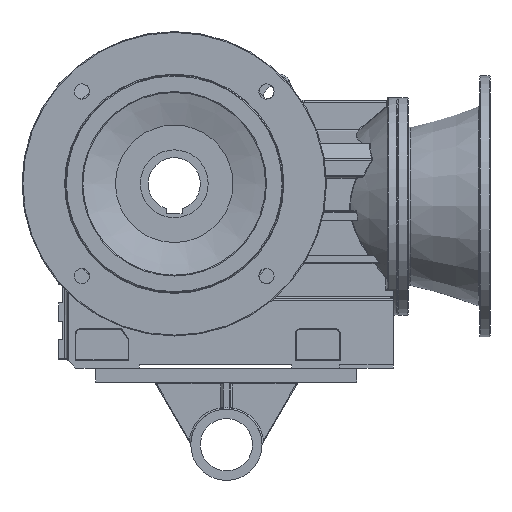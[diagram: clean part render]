
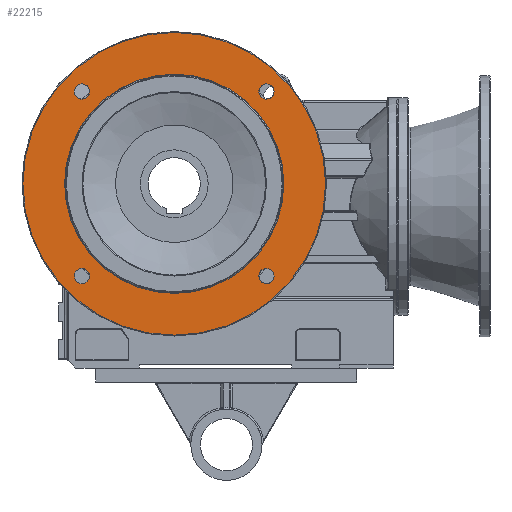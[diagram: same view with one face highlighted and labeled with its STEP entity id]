
A CAD part, front view. The second image highlights one B-rep face of the part: STEP entity #22215.
In plain terms, the highlighted planar face has unit normal (0, -1, 0).
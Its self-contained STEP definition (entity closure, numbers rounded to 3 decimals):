
#21516=CARTESIAN_POINT('',(-97.316,-34.,106.066));
#21517=VERTEX_POINT('',#21516);
#21518=CARTESIAN_POINT('',(-106.066,-34.,106.066));
#21519=DIRECTION('',(0.0,1.0,0.0));
#21520=DIRECTION('',(1.0,0.0,0.0));
#21521=AXIS2_PLACEMENT_3D('',#21518,#21519,#21520);
#21522=CIRCLE('',#21521,8.75);
#21523=EDGE_CURVE('',#21517,#21517,#21522,.T.);
#21646=CARTESIAN_POINT('',(-97.316,-34.,-106.066));
#21647=VERTEX_POINT('',#21646);
#21648=CARTESIAN_POINT('',(-106.066,-34.,-106.066));
#21649=DIRECTION('',(0.0,1.0,0.0));
#21650=DIRECTION('',(1.0,0.0,0.0));
#21651=AXIS2_PLACEMENT_3D('',#21648,#21649,#21650);
#21652=CIRCLE('',#21651,8.75);
#21653=EDGE_CURVE('',#21647,#21647,#21652,.T.);
#21776=CARTESIAN_POINT('',(114.816,-34.,-106.066));
#21777=VERTEX_POINT('',#21776);
#21778=CARTESIAN_POINT('',(106.066,-34.,-106.066));
#21779=DIRECTION('',(0.0,1.0,0.0));
#21780=DIRECTION('',(1.0,0.0,0.0));
#21781=AXIS2_PLACEMENT_3D('',#21778,#21779,#21780);
#21782=CIRCLE('',#21781,8.75);
#21783=EDGE_CURVE('',#21777,#21777,#21782,.T.);
#21906=CARTESIAN_POINT('',(114.816,-34.,106.066));
#21907=VERTEX_POINT('',#21906);
#21908=CARTESIAN_POINT('',(106.066,-34.,106.066));
#21909=DIRECTION('',(0.0,1.0,0.0));
#21910=DIRECTION('',(1.0,0.0,0.0));
#21911=AXIS2_PLACEMENT_3D('',#21908,#21909,#21910);
#21912=CIRCLE('',#21911,8.75);
#21913=EDGE_CURVE('',#21907,#21907,#21912,.T.);
#22169=CARTESIAN_POINT('',(-174.0,-34.,0.0));
#22170=VERTEX_POINT('',#22169);
#22171=CARTESIAN_POINT('',(0.0,-34.,0.0));
#22172=DIRECTION('',(0.0,1.0,0.0));
#22173=DIRECTION('',(1.0,0.0,0.0));
#22174=AXIS2_PLACEMENT_3D('',#22171,#22172,#22173);
#22175=CIRCLE('',#22174,174.0);
#22176=EDGE_CURVE('',#22170,#22170,#22175,.T.);
#22184=CARTESIAN_POINT('',(-150.0,-34.,0.));
#22185=DIRECTION('',(0.0,-1.0,0.0));
#22186=DIRECTION('',(0.0,0.0,-1.0));
#22187=AXIS2_PLACEMENT_3D('',#22184,#22185,#22186);
#22188=PLANE('',#22187);
#22189=ORIENTED_EDGE('',*,*,#22176,.F.);
#22190=EDGE_LOOP('',(#22189));
#22191=FACE_OUTER_BOUND('',#22190,.T.);
#22192=ORIENTED_EDGE('',*,*,#21523,.T.);
#22193=EDGE_LOOP('',(#22192));
#22194=FACE_BOUND('',#22193,.T.);
#22195=ORIENTED_EDGE('',*,*,#21653,.T.);
#22196=EDGE_LOOP('',(#22195));
#22197=FACE_BOUND('',#22196,.T.);
#22198=ORIENTED_EDGE('',*,*,#21783,.T.);
#22199=EDGE_LOOP('',(#22198));
#22200=FACE_BOUND('',#22199,.T.);
#22201=ORIENTED_EDGE('',*,*,#21913,.T.);
#22202=EDGE_LOOP('',(#22201));
#22203=FACE_BOUND('',#22202,.T.);
#22204=CARTESIAN_POINT('',(-126.0,-34.,0.));
#22205=VERTEX_POINT('',#22204);
#22206=CARTESIAN_POINT('',(0.0,-34.,0.0));
#22207=DIRECTION('',(0.0,-1.0,0.0));
#22208=DIRECTION('',(1.0,0.0,0.0));
#22209=AXIS2_PLACEMENT_3D('',#22206,#22207,#22208);
#22210=CIRCLE('',#22209,126.0);
#22211=EDGE_CURVE('',#22205,#22205,#22210,.T.);
#22212=ORIENTED_EDGE('',*,*,#22211,.F.);
#22213=EDGE_LOOP('',(#22212));
#22214=FACE_BOUND('',#22213,.T.);
#22215=ADVANCED_FACE('',(#22191,#22194,#22197,#22200,#22203,#22214),#22188,.T.);
